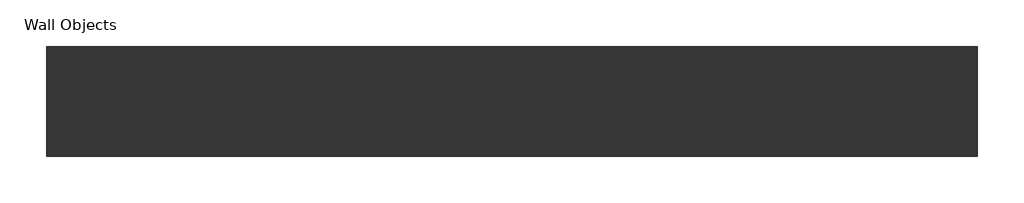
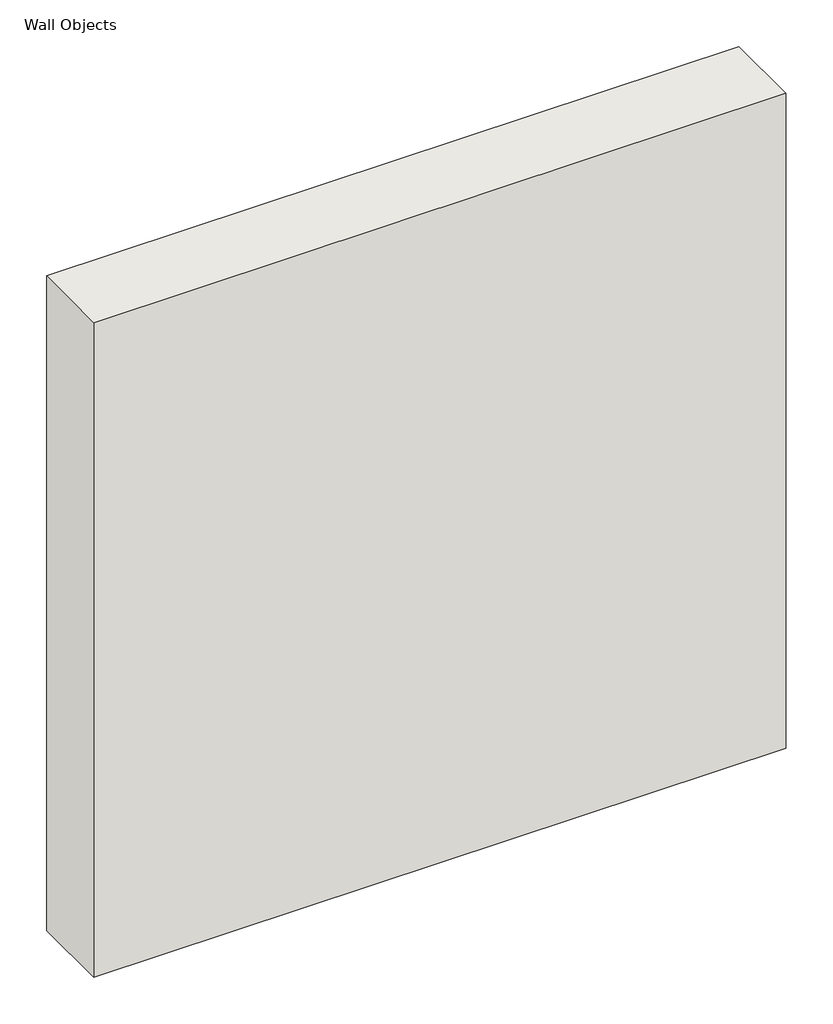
# One storey: 1 wall.
"""IFC4 building model written with IfcOpenShell, lengths in millimetres."""

import ifcopenshell
import ifcopenshell.guid

model = None  # the IFC model being written
_history = None  # IfcOwnerHistory: only IFC2X3 demands one
_inside = {}  # id of a spatial element -> (the spatial element, [elements in it])
_under = {}  # id of a project, library or spatial element -> (it, [spatial elements below it])
_declared = {}  # id of a project -> (the project, [libraries it declares])
_typed = {}  # id of a type object -> (the type object, [elements of that type])
_made_of = {}  # id of a material, layer set ... -> (it, [elements and type objects made of it])


def new_model(schema):
    """Start an empty IFC model of exactly this schema.

    Asked for "IFC4X3", IfcOpenShell would pick the latest addendum, in which some entities
    have other attributes; the version numbers below select the first issue.
    IFC2X3 requires an IfcOwnerHistory on every rooted entity: one is made here for all.
    """
    global model, _history
    if schema == "IFC4X3":
        model = ifcopenshell.file(schema_version=(4, 3, 0, 0))
    else:
        model = ifcopenshell.file(schema=schema)
    _inside.clear()
    _under.clear()
    _declared.clear()
    _typed.clear()
    _made_of.clear()
    _history = None
    if model.schema == "IFC2X3":
        org = make("IfcOrganization", Name="unknown")
        user = make(
            "IfcPersonAndOrganization",
            ThePerson=make("IfcPerson", FamilyName="unknown"),
            TheOrganization=org,
        )
        app = make(
            "IfcApplication",
            ApplicationDeveloper=org,
            Version="unknown",
            ApplicationFullName="unknown",
            ApplicationIdentifier="unknown",
        )
        _history = make(
            "IfcOwnerHistory",
            OwningUser=user,
            OwningApplication=app,
            ChangeAction="ADDED",
            CreationDate=0,
        )
    return model


def make(cls, **values):
    """One entity of the class cls with the attributes given. An attribute that is None is left unset."""
    return model.create_entity(
        cls, **{name: value for name, value in values.items() if value is not None}
    )


def rooted(cls, **values):
    """An entity with a GlobalId (a new one), such as an element, a storey or a relation."""
    return make(cls, GlobalId=ifcopenshell.guid.new(), OwnerHistory=_history, **values)


def si_unit(unit_type, name, prefix=None):
    """IfcSIUnit, for example si_unit("LENGTHUNIT", "METRE", prefix="MILLI")."""
    return make("IfcSIUnit", UnitType=unit_type, Prefix=prefix, Name=name)


def assignment(units):
    """IfcUnitAssignment: the units of a project."""
    return None if units is None else make("IfcUnitAssignment", Units=units)


def point(xyz):
    """IfcCartesianPoint."""
    return None if xyz is None else make("IfcCartesianPoint", Coordinates=xyz)


def direction(xyz):
    """IfcDirection."""
    return None if xyz is None else make("IfcDirection", DirectionRatios=xyz)


def frame(location, z_axis=None, x_axis=None):
    """IfcAxis2Placement3D, a coordinate frame: its origin and axes. An axis left out is left unset."""
    return make(
        "IfcAxis2Placement3D",
        Location=point(location),
        Axis=direction(z_axis),
        RefDirection=direction(x_axis),
    )


def origin():
    """The frame at (0, 0, 0) with its axes left unset."""
    return frame((0.0, 0.0, 0.0))


def place(relative_to, where):
    """IfcLocalPlacement: puts the frame where relative to a parent placement (None: the world)."""
    return make(
        "IfcLocalPlacement", PlacementRelTo=relative_to, RelativePlacement=where
    )


def context(
    kind, dimensions, precision=None, world=None, true_north=None, identifier=None
):
    """IfcGeometricRepresentationContext, for example the 3D "Model" context."""
    return make(
        "IfcGeometricRepresentationContext",
        ContextIdentifier=identifier,
        ContextType=kind,
        CoordinateSpaceDimension=dimensions,
        Precision=precision,
        WorldCoordinateSystem=world,
        TrueNorth=true_north,
    )


def project(units=None, contexts=None):
    """IfcProject with its units and contexts."""
    return rooted(
        "IfcProject",
        Name="project",
        RepresentationContexts=contexts,
        UnitsInContext=assignment(units),
    )


def spatial(cls, under=None, at=None, **own):
    """A site, building, storey or space (cls), placed at a placement, below another one or the project."""
    s = rooted(cls, ObjectPlacement=at, **own)
    if under is not None:
        _under.setdefault(under.id(), (under, []))[1].append(s)
    return s


def polyline(points):
    """IfcPolyline through the points."""
    return make("IfcPolyline", Points=[point(p) for p in points])


def outline(outer, holes=None, kind="AREA"):
    """IfcArbitraryClosedProfileDef: a profile drawn as a closed curve; with holes, ...WithVoids."""
    if holes is None:
        return make("IfcArbitraryClosedProfileDef", ProfileType=kind, OuterCurve=outer)
    return make(
        "IfcArbitraryProfileDefWithVoids",
        ProfileType=kind,
        OuterCurve=outer,
        InnerCurves=holes,
    )


def extrude(swept, where, along, depth):
    """IfcExtrudedAreaSolid: the profile swept, set in the frame where, extruded along a direction by depth."""
    return make(
        "IfcExtrudedAreaSolid",
        SweptArea=swept,
        Position=where,
        ExtrudedDirection=direction(along),
        Depth=depth,
    )


def shape(context_of_items, identifier, shape_type, items):
    """IfcShapeRepresentation: the items that make up one representation, for example the "Body"."""
    return make(
        "IfcShapeRepresentation",
        ContextOfItems=context_of_items,
        RepresentationIdentifier=identifier,
        RepresentationType=shape_type,
        Items=items,
    )


def made_of(thing, what):
    """Note that an element or type object is made of a material, layer set ...; save() writes the relation."""
    if what is not None:
        _made_of.setdefault(what.id(), (what, []))[1].append(thing)
    return thing


def element(
    cls,
    number,
    at=None,
    inside=None,
    cuts=None,
    type_object=None,
    material=None,
    context=None,
    identifier="Body",
    shape_type=None,
    held_by="IfcProductDefinitionShape",
    body=None,
    shapes=None,
    **own,
):
    """One element of the class cls, such as IfcWall. Its Tag is "e" and its number.

    at: its placement. inside: the storey or other place that contains it. cuts: it is an
    opening in that element (IfcRelVoidsElement). A single representation is given by context,
    identifier, shape_type and body (its items); several are given by shapes. held_by: the class
    of the entity that holds the representations. save() writes the other relations.
    """
    e = rooted(cls, Tag="e%d" % number, ObjectPlacement=at, **own)
    if body is not None:
        shapes = [shape(context, identifier, shape_type, body)]
    if shapes is not None:
        e.Representation = make(held_by, Representations=shapes)
    if inside is not None:
        _inside.setdefault(inside.id(), (inside, []))[1].append(e)
    if cuts is not None:
        rooted(
            "IfcRelVoidsElement", RelatingBuildingElement=cuts, RelatedOpeningElement=e
        )
    if type_object is not None:
        _typed.setdefault(type_object.id(), (type_object, []))[1].append(e)
    return made_of(e, material)


def aggregate(whole, parts):
    """IfcRelAggregates: a whole, such as a stair, and the parts it consists of."""
    return rooted("IfcRelAggregates", RelatingObject=whole, RelatedObjects=parts)


def save(model, path):
    """Write the relations noted so far, then the file.

    IfcRelAggregates (storeys below a building ...), IfcRelContainedInSpatialStructure (elements
    in a storey), IfcRelDefinesByType, IfcRelAssociatesMaterial and IfcRelDeclares: one each for
    every whole, place, type object, material and project.
    """
    for whole, parts in _under.values():
        aggregate(whole, parts)
    for where, things in _inside.values():
        rooted(
            "IfcRelContainedInSpatialStructure",
            RelatedElements=things,
            RelatingStructure=where,
        )
    for kind, things in _typed.values():
        rooted("IfcRelDefinesByType", RelatedObjects=things, RelatingType=kind)
    for what, things in _made_of.values():
        rooted("IfcRelAssociatesMaterial", RelatedObjects=things, RelatingMaterial=what)
    for by, libraries in _declared.values():
        rooted("IfcRelDeclares", RelatingContext=by, RelatedDefinitions=libraries)
    model.write(path)


model = new_model("IFC4")

# Units and contexts
model_context = context("Model", 3, world=origin())
ifc_project = project(units=[si_unit("LENGTHUNIT", "METRE", prefix="MILLI")], contexts=[model_context])

# Site, building, storey
site = spatial("IfcSite", under=ifc_project)
building = spatial("IfcBuilding", under=site)
storey = spatial("IfcBuildingStorey", under=building, Name="Wall Objects", Elevation=4000.0)

# Wall
placement = place(None, origin())
element("IfcWall", 1, ObjectType="DS stålprofil - Klikfals_C200", at=placement, inside=storey, context=model_context, shape_type="SweptSolid", body=[
    extrude(outline(polyline([(4000.0, -235.5000075), (0.0, -235.5000075), (0.0, 235.5000075), (4000.0, 235.5000075), (4000.0, -235.5000075)])), frame((0.0, 0.0, 4000.0), z_axis=(0.0, 0.0, 1.0), x_axis=(1.0, 0.0, 0.0)), (0.0, 0.0, 1.0), 4000.0),
])

save(model, "model.ifc")
